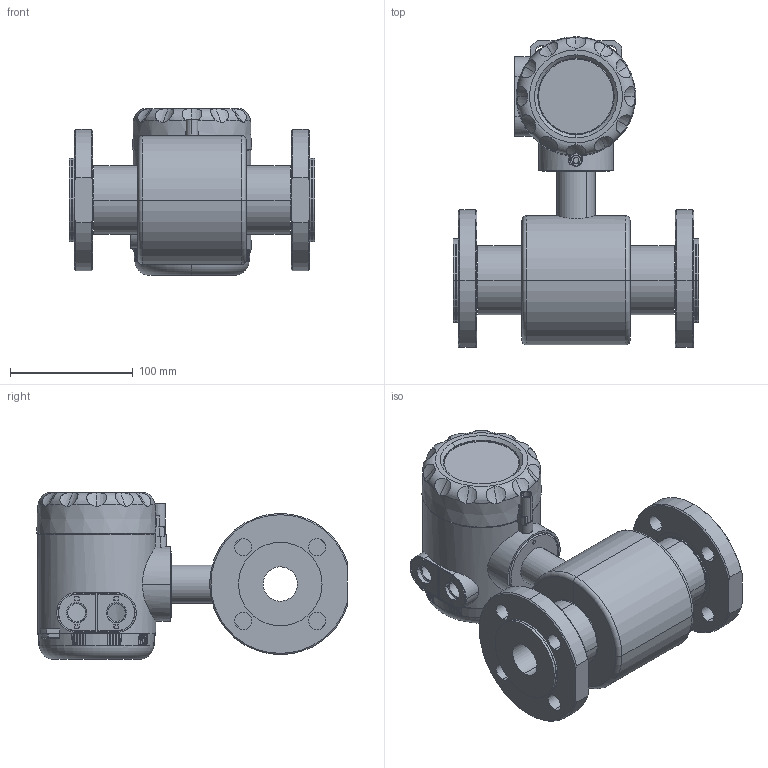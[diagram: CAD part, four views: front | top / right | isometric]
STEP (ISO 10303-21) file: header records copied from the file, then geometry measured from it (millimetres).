
FILE_DESCRIPTION (( 'STEP AP214' ), '1' );
FILE_NAME ('ﾏ頸褞ⅴ ﾏﾐﾎ25.STEP', '2021-07-23T12:48:45', ( '' ), ( '' ), 'SwSTEP 2.0', 'SolidWorks 2016', '' );
FILE_SCHEMA (( 'AUTOMOTIVE_DESIGN' ));
Length unit declared in the file: millimetre
Products named in the file (1): ﾏ頸褞ⅴ ﾏﾐﾎ25
Bounding box: 200 x 252.84 x 135.86 mm (x, y, z)
Surface area: 197730.5 mm2 (no closed solid volume)
Topology: 0 solids, 17 shells, 449 faces, 1497 edges, 1020 vertices
Faces by surface type: plane 160, cone 115, cylinder 106, torus 55, bspline 10, sphere 3
Entity records: 23374 total; most frequent: CARTESIAN_POINT 5466, DIRECTION 2817, ORIENTED_EDGE 2494, EDGE_CURVE 1493, AXIS2_PLACEMENT_3D 1084, VERTEX_POINT 1020, VECTOR 649, LINE 649
